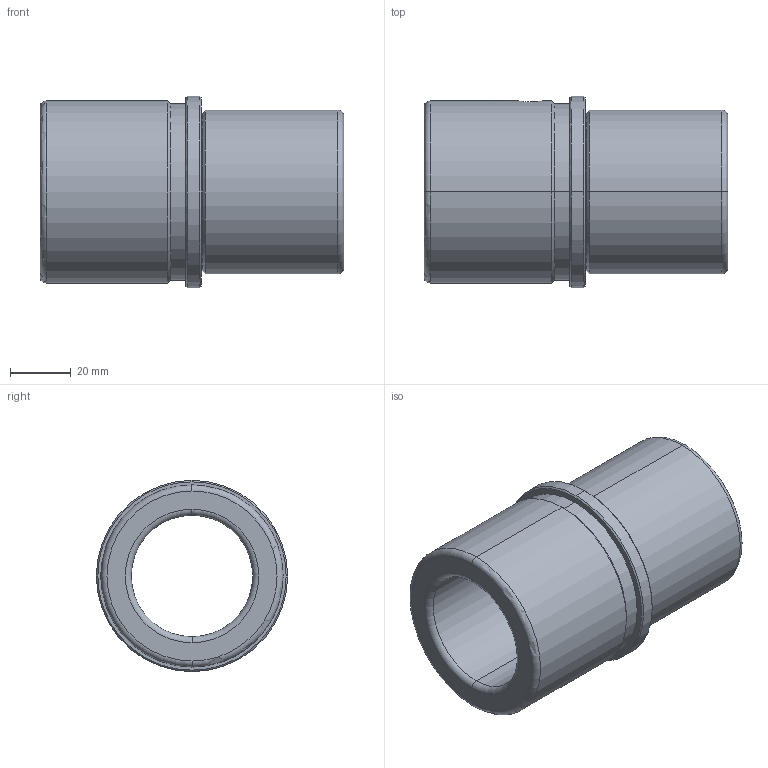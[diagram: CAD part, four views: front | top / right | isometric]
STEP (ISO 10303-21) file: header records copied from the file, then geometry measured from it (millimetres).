
FILE_DESCRIPTION(('CATIA V5 STEP Exchange'),'2;1');
FILE_NAME('C:\Users\Utente\Desktop\IO LAVORO\3D X SITO CF\X SITO\FAMO\FAMO-SF1-D40 x 100.stp','2021-01-06T17:05:39+00:00',('none'),('none'),'CATIA Version 5 Release 20 GA (IN-10)','CATIA V5 STEP AP203','none');
FILE_SCHEMA(('CONFIG_CONTROL_DESIGN'));
Length unit declared in the file: millimetre
Products named in the file (1): FAMO-SF1-D40 x 100
Bounding box: 100 x 63 x 63 mm (x, y, z)
Volume: 130657.1 mm3; surface area: 34506.3 mm2
Topology: 1 solids, 1 shells, 37 faces, 126 edges, 94 vertices
Faces by surface type: cylinder 14, cone 10, torus 8, plane 5
Entity records: 1664 total; most frequent: CARTESIAN_POINT 532, ORIENTED_EDGE 252, DIRECTION 180, EDGE_CURVE 126, AXIS2_PLACEMENT_3D 120, VERTEX_POINT 94, CIRCLE 82, EDGE_LOOP 44
